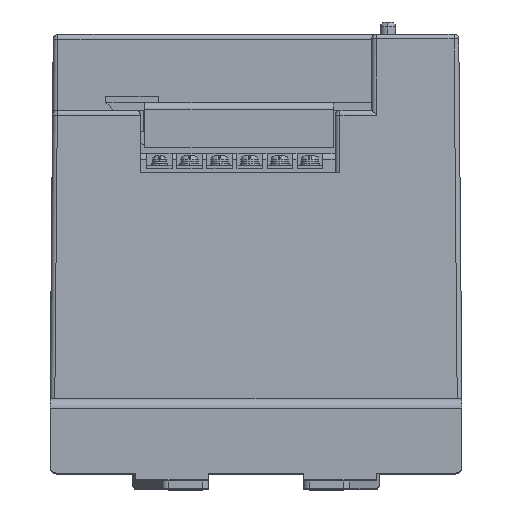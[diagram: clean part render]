
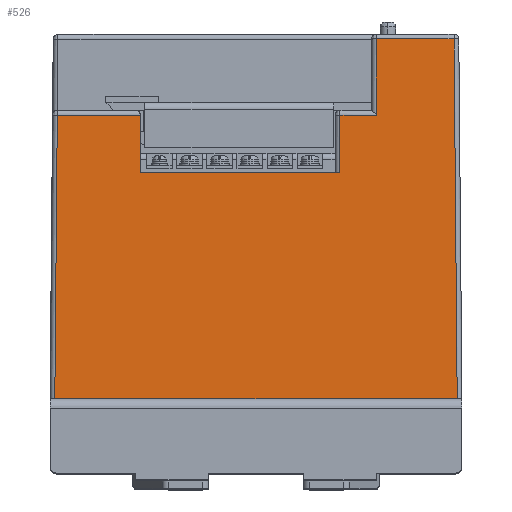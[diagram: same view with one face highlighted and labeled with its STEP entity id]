
A CAD part, top view. The second image highlights one B-rep face of the part: STEP entity #526.
In plain terms, the highlighted planar face has unit normal (0, 0.009, 1).
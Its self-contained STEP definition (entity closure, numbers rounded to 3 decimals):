
#281 = CARTESIAN_POINT ( 'NONE',  ( 63.487, 1.523, 87.987 ) ) ;
#386 = VECTOR ( 'NONE', #20045, 1000. ) ;
#526 = ADVANCED_FACE ( 'NONE', ( #12109 ), #8560, .T. ) ;
#551 = VERTEX_POINT ( 'NONE', #3969 ) ;
#1032 = LINE ( 'NONE', #4574, #20350 ) ;
#1452 = EDGE_CURVE ( 'NONE', #18187, #14279, #1032, .T. ) ;
#1490 = VECTOR ( 'NONE', #1603, 1000. ) ;
#1603 = DIRECTION ( 'NONE',  ( 0., -1., 0.009 ) ) ;
#1751 = EDGE_CURVE ( 'NONE', #17193, #10992, #2550, .T. ) ;
#1771 = LINE ( 'NONE', #2217, #21476 ) ;
#2217 = CARTESIAN_POINT ( 'NONE',  ( -62.719, 89.513, 87.219 ) ) ;
#2550 = LINE ( 'NONE', #9371, #1490 ) ;
#3139 = DIRECTION ( 'NONE',  ( 0., -1., 0.009 ) ) ;
#3306 = CARTESIAN_POINT ( 'NONE',  ( -63.5, 0., 88. ) ) ;
#3373 = ORIENTED_EDGE ( 'NONE', *, *, #8537, .T. ) ;
#3461 = LINE ( 'NONE', #18423, #5767 ) ;
#3606 = LINE ( 'NONE', #281, #22024 ) ;
#3740 = DIRECTION ( 'NONE',  ( 0., 0.009, 1. ) ) ;
#3969 = CARTESIAN_POINT ( 'NONE',  ( 62.509, 113.513, 87.009 ) ) ;
#4042 = VERTEX_POINT ( 'NONE', #19124 ) ;
#4386 = VERTEX_POINT ( 'NONE', #12672 ) ;
#4424 = VERTEX_POINT ( 'NONE', #7995 ) ;
#4574 = CARTESIAN_POINT ( 'NONE',  ( 0., 0., 88. ) ) ;
#4618 = VERTEX_POINT ( 'NONE', #12970 ) ;
#4731 = ORIENTED_EDGE ( 'NONE', *, *, #14372, .F. ) ;
#5297 = EDGE_LOOP ( 'NONE', ( #12591, #3373, #18978, #14928, #10224, #21468, #5499, #4731, #5376, #11076, #19271 ) ) ;
#5376 = ORIENTED_EDGE ( 'NONE', *, *, #13639, .T. ) ;
#5465 = EDGE_CURVE ( 'NONE', #4042, #15472, #19591, .T. ) ;
#5499 = ORIENTED_EDGE ( 'NONE', *, *, #1452, .T. ) ;
#5767 = VECTOR ( 'NONE', #3139, 1000. ) ;
#6004 = CARTESIAN_POINT ( 'NONE',  ( 38., 113.513, 87.009 ) ) ;
#6102 = CARTESIAN_POINT ( 'NONE',  ( 63.5, 0., 88. ) ) ;
#6242 = EDGE_CURVE ( 'NONE', #4618, #18187, #1771, .T. ) ;
#6331 = VECTOR ( 'NONE', #11142, 1000. ) ;
#6617 = VECTOR ( 'NONE', #18024, 1000. ) ;
#6618 = LINE ( 'NONE', #9974, #17349 ) ;
#7187 = DIRECTION ( 'NONE',  ( 0.009, -1., 0.009 ) ) ;
#7576 = CARTESIAN_POINT ( 'NONE',  ( -36.5, 89.504, 87.219 ) ) ;
#7908 = CARTESIAN_POINT ( 'NONE',  ( -65., 89.513, 87.219 ) ) ;
#7995 = CARTESIAN_POINT ( 'NONE',  ( -36.5, 71.5, 87.376 ) ) ;
#8537 = EDGE_CURVE ( 'NONE', #16465, #4424, #6618, .T. ) ;
#8560 = PLANE ( 'NONE',  #16115 ) ;
#9280 = CARTESIAN_POINT ( 'NONE',  ( 26.5, 71.5, 87.376 ) ) ;
#9371 = CARTESIAN_POINT ( 'NONE',  ( 38., 0., 88. ) ) ;
#9741 = EDGE_CURVE ( 'NONE', #4424, #15472, #12081, .T. ) ;
#9974 = CARTESIAN_POINT ( 'NONE',  ( -65., 71.5, 87.376 ) ) ;
#10224 = ORIENTED_EDGE ( 'NONE', *, *, #12153, .T. ) ;
#10296 = EDGE_CURVE ( 'NONE', #4386, #16465, #3461, .T. ) ;
#10910 = CARTESIAN_POINT ( 'NONE',  ( -65., 89.513, 87.219 ) ) ;
#10992 = VERTEX_POINT ( 'NONE', #11114 ) ;
#11027 = CARTESIAN_POINT ( 'NONE',  ( -36.5, 89.5, 87.219 ) ) ;
#11076 = ORIENTED_EDGE ( 'NONE', *, *, #1751, .T. ) ;
#11114 = CARTESIAN_POINT ( 'NONE',  ( 38., 89.513, 87.219 ) ) ;
#11142 = DIRECTION ( 'NONE',  ( -1., 0., 0. ) ) ;
#11228 = LINE ( 'NONE', #10910, #6617 ) ;
#12081 = LINE ( 'NONE', #16771, #13270 ) ;
#12109 = FACE_OUTER_BOUND ( 'NONE', #5297, .T. ) ;
#12153 = EDGE_CURVE ( 'NONE', #4042, #4618, #14373, .T. ) ;
#12591 = ORIENTED_EDGE ( 'NONE', *, *, #10296, .T. ) ;
#12672 = CARTESIAN_POINT ( 'NONE',  ( 26.5, 89.513, 87.219 ) ) ;
#12970 = CARTESIAN_POINT ( 'NONE',  ( -62.719, 89.513, 87.219 ) ) ;
#13270 = VECTOR ( 'NONE', #13421, 1000. ) ;
#13421 = DIRECTION ( 'NONE',  ( 0., 1., -0.009 ) ) ;
#13565 = LINE ( 'NONE', #13677, #386 ) ;
#13639 = EDGE_CURVE ( 'NONE', #551, #17193, #13565, .T. ) ;
#13677 = CARTESIAN_POINT ( 'NONE',  ( -65., 113.513, 87.009 ) ) ;
#14279 = VERTEX_POINT ( 'NONE', #6102 ) ;
#14372 = EDGE_CURVE ( 'NONE', #551, #14279, #3606, .T. ) ;
#14373 = LINE ( 'NONE', #7908, #6331 ) ;
#14928 = ORIENTED_EDGE ( 'NONE', *, *, #5465, .F. ) ;
#15472 = VERTEX_POINT ( 'NONE', #20278 ) ;
#15818 = DIRECTION ( 'NONE',  ( -0.009, -1., 0.009 ) ) ;
#16115 = AXIS2_PLACEMENT_3D ( 'NONE', #20930, #3740, #17240 ) ;
#16255 = CARTESIAN_POINT ( 'NONE',  ( -36.5, 89.513, 87.219 ) ) ;
#16465 = VERTEX_POINT ( 'NONE', #9280 ) ;
#16771 = CARTESIAN_POINT ( 'NONE',  ( -36.5, 0., 88. ) ) ;
#17193 = VERTEX_POINT ( 'NONE', #6004 ) ;
#17240 = DIRECTION ( 'NONE',  ( 0., -1., 0.009 ) ) ;
#17349 = VECTOR ( 'NONE', #20006, 1000. ) ;
#18024 = DIRECTION ( 'NONE',  ( -1., 0., 0. ) ) ;
#18187 = VERTEX_POINT ( 'NONE', #3306 ) ;
#18423 = CARTESIAN_POINT ( 'NONE',  ( 26.5, 0., 88. ) ) ;
#18978 = ORIENTED_EDGE ( 'NONE', *, *, #9741, .T. ) ;
#19124 = CARTESIAN_POINT ( 'NONE',  ( -36.5, 89.513, 87.219 ) ) ;
#19271 = ORIENTED_EDGE ( 'NONE', *, *, #19646, .T. ) ;
#19591 = B_SPLINE_CURVE_WITH_KNOTS ( 'NONE', 3,
 ( #16255, #19615, #7576, #11027 ),
 .UNSPECIFIED., .F., .F.,
 ( 4, 4 ),
 ( 0., 1. ),
 .UNSPECIFIED. ) ;
#19615 = CARTESIAN_POINT ( 'NONE',  ( -36.5, 89.509, 87.219 ) ) ;
#19646 = EDGE_CURVE ( 'NONE', #10992, #4386, #11228, .T. ) ;
#19753 = DIRECTION ( 'NONE',  ( 1., 0., 0. ) ) ;
#20006 = DIRECTION ( 'NONE',  ( -1., 0., 0. ) ) ;
#20045 = DIRECTION ( 'NONE',  ( -1., 0., 0. ) ) ;
#20278 = CARTESIAN_POINT ( 'NONE',  ( -36.5, 89.5, 87.219 ) ) ;
#20350 = VECTOR ( 'NONE', #19753, 1000. ) ;
#20930 = CARTESIAN_POINT ( 'NONE',  ( -65., 0., 88. ) ) ;
#21468 = ORIENTED_EDGE ( 'NONE', *, *, #6242, .T. ) ;
#21476 = VECTOR ( 'NONE', #15818, 1000. ) ;
#22024 = VECTOR ( 'NONE', #7187, 1000. ) ;
